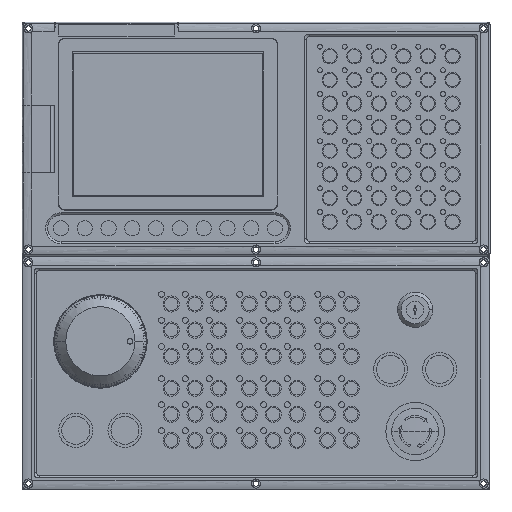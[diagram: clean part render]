
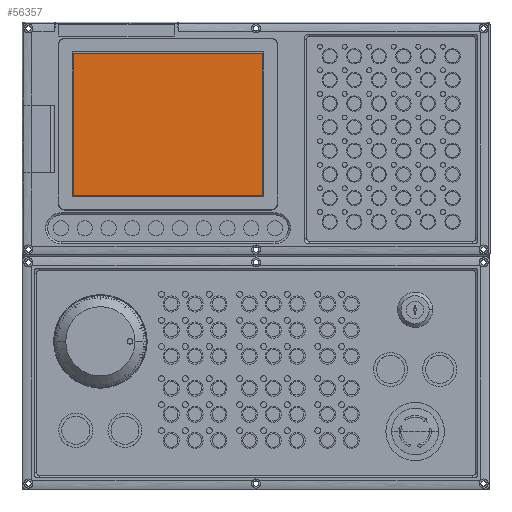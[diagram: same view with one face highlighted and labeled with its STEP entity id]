
A CAD part, top view. The second image highlights one B-rep face of the part: STEP entity #56357.
In plain terms, the highlighted planar face has unit normal (0, 0, 1).
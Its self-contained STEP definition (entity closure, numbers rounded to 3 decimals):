
#5007 = ORIENTED_EDGE ( 'NONE', *, *, #40025, .F. ) ;
#13529 = DIRECTION ( 'NONE',  ( 0., 1., 0. ) ) ;
#20218 = CARTESIAN_POINT ( 'NONE',  ( -156.2, -48.1, 1.82 ) ) ;
#20264 = DIRECTION ( 'NONE',  ( 1., 0., 0. ) ) ;
#28824 = LINE ( 'NONE', #51139, #88094 ) ;
#31099 = VERTEX_POINT ( 'NONE', #63570 ) ;
#32466 = EDGE_LOOP ( 'NONE', ( #78986, #5007, #96354, #60597 ) ) ;
#40025 = EDGE_CURVE ( 'NONE', #123004, #123856, #28824, .T. ) ;
#49201 = DIRECTION ( 'NONE',  ( 1., 0., 0. ) ) ;
#51139 = CARTESIAN_POINT ( 'NONE',  ( -163.7, -48.1, 1.82 ) ) ;
#56357 = ADVANCED_FACE ( 'NONE', ( #85108 ), #59301, .T. ) ;
#59301 = PLANE ( 'NONE',  #93013 ) ;
#60597 = ORIENTED_EDGE ( 'NONE', *, *, #110847, .F. ) ;
#63570 = CARTESIAN_POINT ( 'NONE',  ( -156.2, 73.4, 1.82 ) ) ;
#64572 = EDGE_CURVE ( 'NONE', #72137, #123004, #81788, .T. ) ;
#67449 = CARTESIAN_POINT ( 'NONE',  ( 5.8, 80.9, 1.82 ) ) ;
#72137 = VERTEX_POINT ( 'NONE', #94158 ) ;
#73008 = LINE ( 'NONE', #83270, #132122 ) ;
#78986 = ORIENTED_EDGE ( 'NONE', *, *, #120248, .F. ) ;
#81788 = LINE ( 'NONE', #67449, #131026 ) ;
#83270 = CARTESIAN_POINT ( 'NONE',  ( -163.7, 73.4, 1.82 ) ) ;
#85108 = FACE_OUTER_BOUND ( 'NONE', #32466, .T. ) ;
#88094 = VECTOR ( 'NONE', #114080, 1000. ) ;
#89961 = VECTOR ( 'NONE', #13529, 1000. ) ;
#91103 = CARTESIAN_POINT ( 'NONE',  ( -163.7, 80.9, 1.82 ) ) ;
#93013 = AXIS2_PLACEMENT_3D ( 'NONE', #91103, #112163, #49201 ) ;
#94158 = CARTESIAN_POINT ( 'NONE',  ( 5.8, 73.4, 1.82 ) ) ;
#96354 = ORIENTED_EDGE ( 'NONE', *, *, #64572, .F. ) ;
#97227 = CARTESIAN_POINT ( 'NONE',  ( -156.2, 80.9, 1.82 ) ) ;
#99639 = DIRECTION ( 'NONE',  ( 0., -1., 0. ) ) ;
#110847 = EDGE_CURVE ( 'NONE', #31099, #72137, #73008, .T. ) ;
#112163 = DIRECTION ( 'NONE',  ( 0., 0., 1. ) ) ;
#114080 = DIRECTION ( 'NONE',  ( -1., 0., 0. ) ) ;
#117784 = LINE ( 'NONE', #97227, #89961 ) ;
#120248 = EDGE_CURVE ( 'NONE', #123856, #31099, #117784, .T. ) ;
#123004 = VERTEX_POINT ( 'NONE', #133080 ) ;
#123856 = VERTEX_POINT ( 'NONE', #20218 ) ;
#131026 = VECTOR ( 'NONE', #99639, 1000. ) ;
#132122 = VECTOR ( 'NONE', #20264, 1000. ) ;
#133080 = CARTESIAN_POINT ( 'NONE',  ( 5.8, -48.1, 1.82 ) ) ;
